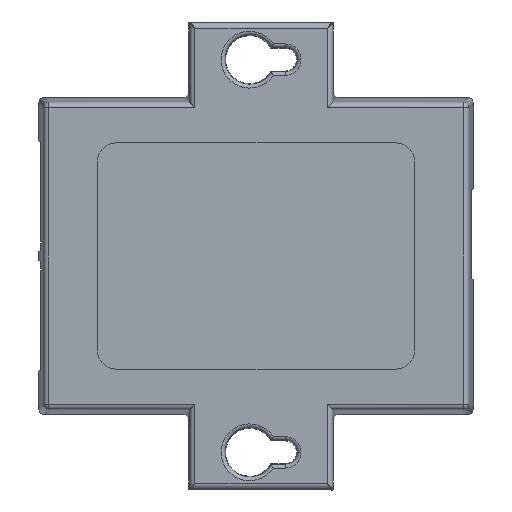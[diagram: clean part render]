
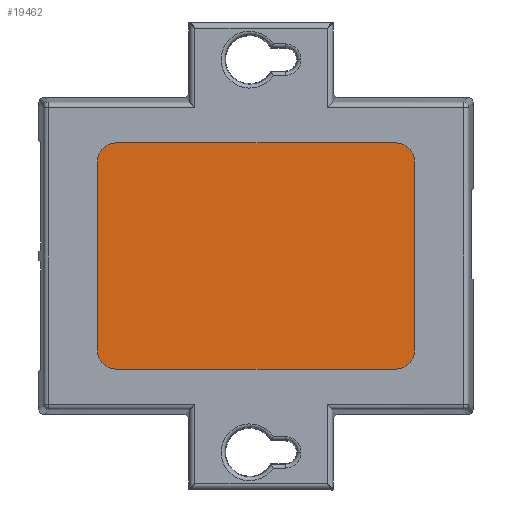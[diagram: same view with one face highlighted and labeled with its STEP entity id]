
A CAD part, front view. The second image highlights one B-rep face of the part: STEP entity #19462.
In plain terms, the highlighted planar face has unit normal (0, -1, 0) as drawn and (0, 1, 0) by its records, which use the part's own axes.
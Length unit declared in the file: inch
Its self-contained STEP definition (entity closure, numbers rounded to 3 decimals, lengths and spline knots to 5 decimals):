
#514 = EDGE_CURVE ( 'NONE', #6853, #19135, #6136, .T. ) ;
#837 = VERTEX_POINT ( 'NONE', #42937 ) ;
#942 = DIRECTION ( 'NONE',  ( -1., 0., 0. ) ) ;
#1147 = CARTESIAN_POINT ( 'NONE',  ( 0., 0.01, -1.65 ) ) ;
#2361 = VECTOR ( 'NONE', #942, 39.37008 ) ;
#4277 = EDGE_CURVE ( 'NONE', #837, #16696, #12314, .T. ) ;
#5529 = DIRECTION ( 'NONE',  ( 0., 1., 0. ) ) ;
#6130 = VERTEX_POINT ( 'NONE', #53420 ) ;
#6136 = LINE ( 'NONE', #10679, #39777 ) ;
#6853 = VERTEX_POINT ( 'NONE', #1147 ) ;
#7354 = ORIENTED_EDGE ( 'NONE', *, *, #514, .T. ) ;
#9465 = AXIS2_PLACEMENT_3D ( 'NONE', #20722, #50263, #24921 ) ;
#9508 = AXIS2_PLACEMENT_3D ( 'NONE', #33081, #24807, #54406 ) ;
#10207 = CIRCLE ( 'NONE', #50704, 0.1 ) ;
#10679 = CARTESIAN_POINT ( 'NONE',  ( 0., 0.01, -0.1 ) ) ;
#11039 = EDGE_CURVE ( 'NONE', #16696, #6853, #10207, .T. ) ;
#12314 = LINE ( 'NONE', #21950, #2361 ) ;
#13576 = CARTESIAN_POINT ( 'NONE',  ( 1.25, 0.01, -0.1 ) ) ;
#14569 = CARTESIAN_POINT ( 'NONE',  ( 1.15, 0.01, 0. ) ) ;
#15756 = FACE_OUTER_BOUND ( 'NONE', #21192, .T. ) ;
#16696 = VERTEX_POINT ( 'NONE', #49689 ) ;
#18185 = DIRECTION ( 'NONE',  ( 0., 1., 0. ) ) ;
#19135 = VERTEX_POINT ( 'NONE', #39194 ) ;
#19462 = ADVANCED_FACE ( 'NONE', ( #15756 ), #50148, .F. ) ;
#19633 = VERTEX_POINT ( 'NONE', #13576 ) ;
#19753 = ORIENTED_EDGE ( 'NONE', *, *, #34990, .T. ) ;
#20043 = CARTESIAN_POINT ( 'NONE',  ( 0.1, 0.01, 0. ) ) ;
#20722 = CARTESIAN_POINT ( 'NONE',  ( 0.1, 0.01, -0.1 ) ) ;
#21086 = CARTESIAN_POINT ( 'NONE',  ( 1.15, 0.01, -1.65 ) ) ;
#21176 = DIRECTION ( 'NONE',  ( 0., 0., -1. ) ) ;
#21192 = EDGE_LOOP ( 'NONE', ( #44008, #39590, #32409, #7354, #19753, #31553, #23609, #24873 ) ) ;
#21950 = CARTESIAN_POINT ( 'NONE',  ( 0.1, 0.01, -1.75 ) ) ;
#23609 = ORIENTED_EDGE ( 'NONE', *, *, #46946, .T. ) ;
#24692 = EDGE_CURVE ( 'NONE', #19633, #28107, #30975, .T. ) ;
#24807 = DIRECTION ( 'NONE',  ( 0., -1., 0. ) ) ;
#24873 = ORIENTED_EDGE ( 'NONE', *, *, #24692, .T. ) ;
#24921 = DIRECTION ( 'NONE',  ( 0., 0., -1. ) ) ;
#25289 = DIRECTION ( 'NONE',  ( 0., 0., -1. ) ) ;
#28107 = VERTEX_POINT ( 'NONE', #29707 ) ;
#29707 = CARTESIAN_POINT ( 'NONE',  ( 1.25, 0.01, -1.65 ) ) ;
#30723 = CARTESIAN_POINT ( 'NONE',  ( 1.15, 0.01, -0.1 ) ) ;
#30975 = LINE ( 'NONE', #42059, #39609 ) ;
#31553 = ORIENTED_EDGE ( 'NONE', *, *, #33670, .T. ) ;
#32409 = ORIENTED_EDGE ( 'NONE', *, *, #11039, .T. ) ;
#33081 = CARTESIAN_POINT ( 'NONE',  ( 1.15, 0.01, -1.65 ) ) ;
#33670 = EDGE_CURVE ( 'NONE', #6130, #52511, #33931, .T. ) ;
#33931 = LINE ( 'NONE', #20043, #43941 ) ;
#34641 = CIRCLE ( 'NONE', #9465, 0.1 ) ;
#34990 = EDGE_CURVE ( 'NONE', #19135, #6130, #34641, .T. ) ;
#34992 = DIRECTION ( 'NONE',  ( 0., 0., 1. ) ) ;
#39194 = CARTESIAN_POINT ( 'NONE',  ( 0., 0.01, -0.1 ) ) ;
#39590 = ORIENTED_EDGE ( 'NONE', *, *, #4277, .T. ) ;
#39609 = VECTOR ( 'NONE', #21176, 39.37008 ) ;
#39777 = VECTOR ( 'NONE', #40145, 39.37008 ) ;
#40145 = DIRECTION ( 'NONE',  ( 0., 0., 1. ) ) ;
#41041 = DIRECTION ( 'NONE',  ( 1., 0., 0. ) ) ;
#42059 = CARTESIAN_POINT ( 'NONE',  ( 1.25, 0.01, -0.1 ) ) ;
#42937 = CARTESIAN_POINT ( 'NONE',  ( 1.15, 0.01, -1.75 ) ) ;
#43452 = CARTESIAN_POINT ( 'NONE',  ( 0.1, 0.01, -1.65 ) ) ;
#43792 = CIRCLE ( 'NONE', #54034, 0.1 ) ;
#43941 = VECTOR ( 'NONE', #41041, 39.37008 ) ;
#44008 = ORIENTED_EDGE ( 'NONE', *, *, #48728, .T. ) ;
#44532 = AXIS2_PLACEMENT_3D ( 'NONE', #21086, #50631, #25289 ) ;
#46676 = CIRCLE ( 'NONE', #44532, 0.1 ) ;
#46946 = EDGE_CURVE ( 'NONE', #52511, #19633, #43792, .T. ) ;
#47672 = DIRECTION ( 'NONE',  ( 0., 0., -1. ) ) ;
#48728 = EDGE_CURVE ( 'NONE', #28107, #837, #46676, .T. ) ;
#49689 = CARTESIAN_POINT ( 'NONE',  ( 0.1, 0.01, -1.75 ) ) ;
#50148 = PLANE ( 'NONE',  #9508 ) ;
#50263 = DIRECTION ( 'NONE',  ( 0., 1., 0. ) ) ;
#50631 = DIRECTION ( 'NONE',  ( 0., 1., 0. ) ) ;
#50704 = AXIS2_PLACEMENT_3D ( 'NONE', #43452, #18185, #47672 ) ;
#52511 = VERTEX_POINT ( 'NONE', #14569 ) ;
#53420 = CARTESIAN_POINT ( 'NONE',  ( 0.1, 0.01, 0. ) ) ;
#54034 = AXIS2_PLACEMENT_3D ( 'NONE', #30723, #5529, #34992 ) ;
#54406 = DIRECTION ( 'NONE',  ( 0., 0., -1. ) ) ;
